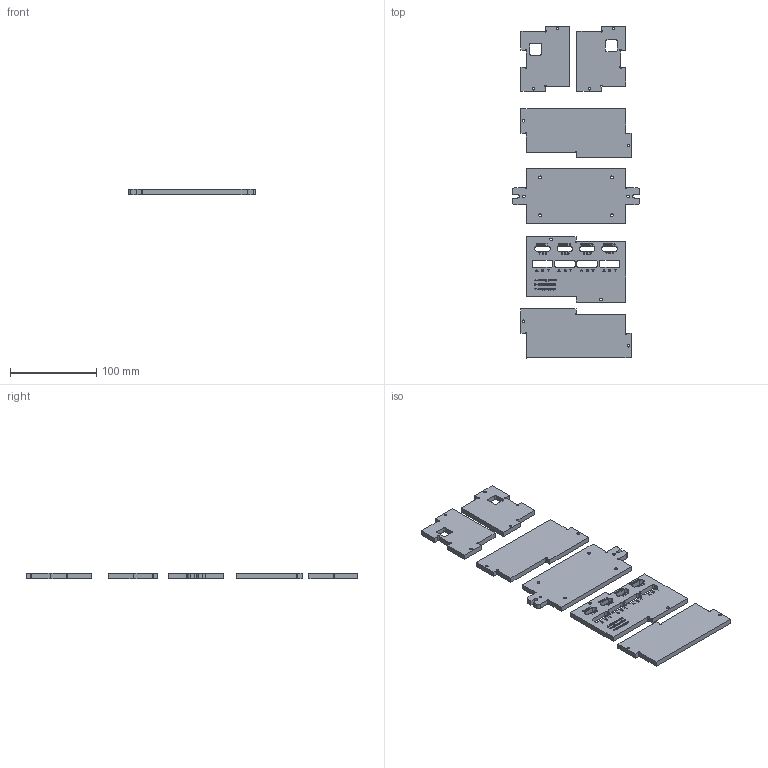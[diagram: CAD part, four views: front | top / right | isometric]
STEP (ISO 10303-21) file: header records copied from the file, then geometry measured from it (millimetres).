
FILE_DESCRIPTION(/* description */ (''),/* implementation_level */ '2;1');
FILE_NAME(/* name */ '/Users/leslieshaw/Desktop/Rack-mount Sensor Fusion Controller cut.step',/* time_stamp */ '2019-04-08T11:23:58-07:00',/* author */ ('leslieshaw'),/* organization */ (''),/* preprocessor_version */ 'ST-DEVELOPER v17.2',/* originating_system */ 'Autodesk Translation Framework v7.6.0.251',/* authorisation */ '');
FILE_SCHEMA (('AUTOMOTIVE_DESIGN { 1 0 10303 214 3 1 1 }'));
Products named in the file (2): Rack-mount Controller cut; Component1
Assembly tree (1 placements, depth 2):
  Rack-mount Controller cut
    Component1
Bounding box: 148 x 386 x 6 mm (x, y, z)
Volume: 212157.2 mm3; surface area: 87947.4 mm2
Topology: 6 solids, 6 shells, 2400 faces, 6666 edges, 4444 vertices
Faces by surface type: bspline 1312, plane 1005, cylinder 83
Full cylindrical faces by diameter (mm): 3 x12, 3.2 x4
Entity records: 88548 total; most frequent: CARTESIAN_POINT 35817, ORIENTED_EDGE 13332, EDGE_CURVE 6666, DIRECTION 6390, VERTEX_POINT 4444, LINE 3876, VECTOR 3876, B_SPLINE_CURVE_WITH_KNOTS 2624
